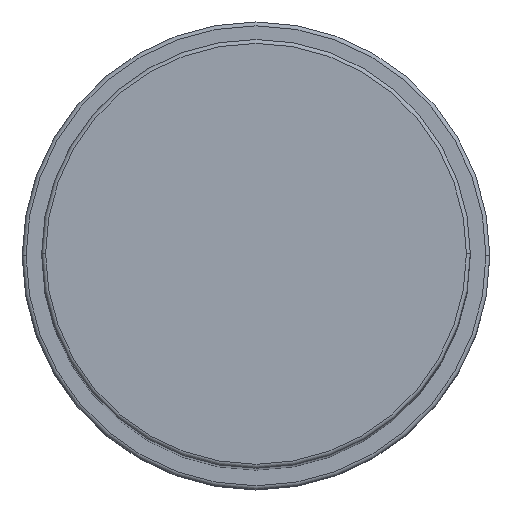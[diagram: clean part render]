
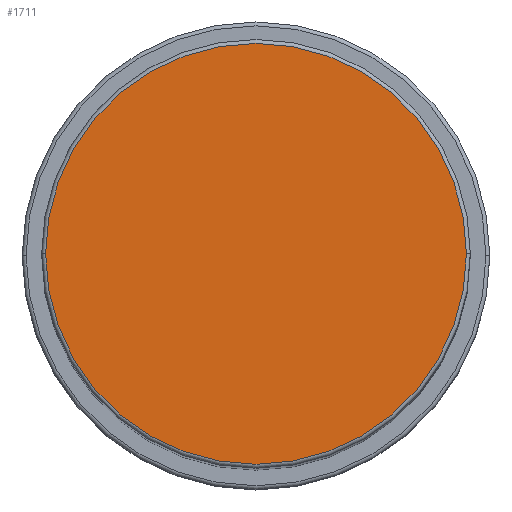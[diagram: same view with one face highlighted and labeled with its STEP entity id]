
A CAD part, top view. The second image highlights one B-rep face of the part: STEP entity #1711.
In plain terms, the highlighted planar face has unit normal (0, 0, 1).
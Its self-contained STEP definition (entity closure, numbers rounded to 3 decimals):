
#147 = DIRECTION ( 'NONE',  ( 0., 0., 1. ) ) ;
#500 = CARTESIAN_POINT ( 'NONE',  ( 0., 0., 158. ) ) ;
#541 = DIRECTION ( 'NONE',  ( 1., 0., 0. ) ) ;
#606 = ORIENTED_EDGE ( 'NONE', *, *, #1881, .T. ) ;
#1427 = VERTEX_POINT ( 'NONE', #3661 ) ;
#1499 = ORIENTED_EDGE ( 'NONE', *, *, #4760, .T. ) ;
#1711 = ADVANCED_FACE ( 'NONE', ( #4223 ), #2805, .T. ) ;
#1830 = EDGE_LOOP ( 'NONE', ( #1499, #606 ) ) ;
#1881 = EDGE_CURVE ( 'NONE', #1427, #3552, #4458, .T. ) ;
#2058 = AXIS2_PLACEMENT_3D ( 'NONE', #4896, #2221, #4153 ) ;
#2221 = DIRECTION ( 'NONE',  ( 0., 0., 1. ) ) ;
#2805 = PLANE ( 'NONE',  #3835 ) ;
#2863 = CARTESIAN_POINT ( 'NONE',  ( 0., 0., 158. ) ) ;
#3552 = VERTEX_POINT ( 'NONE', #4549 ) ;
#3577 = DIRECTION ( 'NONE',  ( 1., 0., 0. ) ) ;
#3661 = CARTESIAN_POINT ( 'NONE',  ( -27., 0., 158. ) ) ;
#3800 = AXIS2_PLACEMENT_3D ( 'NONE', #2863, #4323, #3577 ) ;
#3835 = AXIS2_PLACEMENT_3D ( 'NONE', #500, #147, #541 ) ;
#4153 = DIRECTION ( 'NONE',  ( 1., 0., 0. ) ) ;
#4223 = FACE_OUTER_BOUND ( 'NONE', #1830, .T. ) ;
#4323 = DIRECTION ( 'NONE',  ( 0., 0., 1. ) ) ;
#4458 = CIRCLE ( 'NONE', #2058, 27. ) ;
#4549 = CARTESIAN_POINT ( 'NONE',  ( 27., 0., 158. ) ) ;
#4704 = CIRCLE ( 'NONE', #3800, 27. ) ;
#4760 = EDGE_CURVE ( 'NONE', #3552, #1427, #4704, .T. ) ;
#4896 = CARTESIAN_POINT ( 'NONE',  ( 0., 0., 158. ) ) ;
